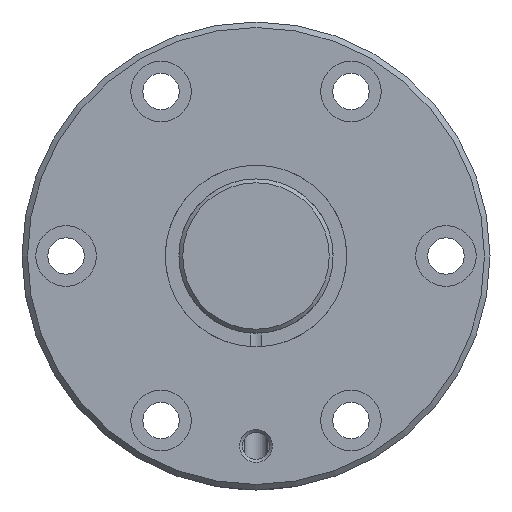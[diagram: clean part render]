
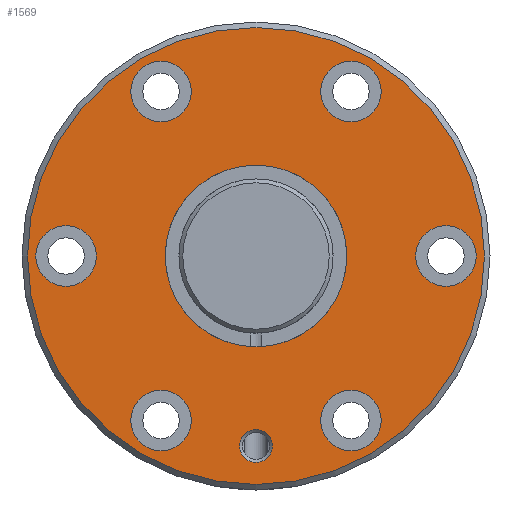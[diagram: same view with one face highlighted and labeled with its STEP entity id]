
A CAD part, left-side view. The second image highlights one B-rep face of the part: STEP entity #1569.
In plain terms, the highlighted planar face has unit normal (-1, 0, 0).
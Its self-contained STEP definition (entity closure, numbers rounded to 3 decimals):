
#267=ORIENTED_EDGE('',*,*,#629,.T.);
#268=ORIENTED_EDGE('',*,*,#661,.T.);
#269=ORIENTED_EDGE('',*,*,#662,.T.);
#270=ORIENTED_EDGE('',*,*,#663,.T.);
#271=ORIENTED_EDGE('',*,*,#664,.T.);
#272=ORIENTED_EDGE('',*,*,#665,.T.);
#273=ORIENTED_EDGE('',*,*,#666,.T.);
#274=ORIENTED_EDGE('',*,*,#667,.T.);
#275=ORIENTED_EDGE('',*,*,#660,.F.);
#629=EDGE_CURVE('',#830,#830,#974,.T.);
#660=EDGE_CURVE('',#861,#861,#977,.T.);
#661=EDGE_CURVE('',#862,#862,#978,.F.);
#662=EDGE_CURVE('',#863,#863,#979,.T.);
#663=EDGE_CURVE('',#864,#864,#980,.T.);
#664=EDGE_CURVE('',#865,#865,#981,.T.);
#665=EDGE_CURVE('',#866,#866,#982,.T.);
#666=EDGE_CURVE('',#867,#867,#983,.T.);
#667=EDGE_CURVE('',#868,#868,#984,.T.);
#830=VERTEX_POINT('',#2611);
#861=VERTEX_POINT('',#2757);
#862=VERTEX_POINT('',#2760);
#863=VERTEX_POINT('',#2762);
#864=VERTEX_POINT('',#2764);
#865=VERTEX_POINT('',#2766);
#866=VERTEX_POINT('',#2768);
#867=VERTEX_POINT('',#2770);
#868=VERTEX_POINT('',#2772);
#974=CIRCLE('',#1714,16.5);
#977=CIRCLE('',#1721,41.5);
#978=CIRCLE('',#1723,5.5);
#979=CIRCLE('',#1724,3.);
#980=CIRCLE('',#1725,5.5);
#981=CIRCLE('',#1726,5.5);
#982=CIRCLE('',#1727,5.5);
#983=CIRCLE('',#1728,5.5);
#984=CIRCLE('',#1729,5.5);
#1132=EDGE_LOOP('',(#267));
#1133=EDGE_LOOP('',(#268));
#1134=EDGE_LOOP('',(#269));
#1135=EDGE_LOOP('',(#270));
#1136=EDGE_LOOP('',(#271));
#1137=EDGE_LOOP('',(#272));
#1138=EDGE_LOOP('',(#273));
#1139=EDGE_LOOP('',(#274));
#1140=EDGE_LOOP('',(#275));
#1334=FACE_BOUND('',#1132,.T.);
#1335=FACE_BOUND('',#1133,.T.);
#1336=FACE_BOUND('',#1134,.T.);
#1337=FACE_BOUND('',#1135,.T.);
#1338=FACE_BOUND('',#1136,.T.);
#1339=FACE_BOUND('',#1137,.T.);
#1340=FACE_BOUND('',#1138,.T.);
#1341=FACE_BOUND('',#1139,.T.);
#1342=FACE_BOUND('',#1140,.T.);
#1507=PLANE('',#1722);
#1569=ADVANCED_FACE('',(#1334,#1335,#1336,#1337,#1338,#1339,#1340,#1341,
#1342),#1507,.T.);
#1714=AXIS2_PLACEMENT_3D('',#2610,#1994,#1995);
#1721=AXIS2_PLACEMENT_3D('',#2756,#2028,#2029);
#1722=AXIS2_PLACEMENT_3D('',#2758,#2030,#2031);
#1723=AXIS2_PLACEMENT_3D('',#2759,#2032,#2033);
#1724=AXIS2_PLACEMENT_3D('',#2761,#2034,#2035);
#1725=AXIS2_PLACEMENT_3D('',#2763,#2036,#2037);
#1726=AXIS2_PLACEMENT_3D('',#2765,#2038,#2039);
#1727=AXIS2_PLACEMENT_3D('',#2767,#2040,#2041);
#1728=AXIS2_PLACEMENT_3D('',#2769,#2042,#2043);
#1729=AXIS2_PLACEMENT_3D('',#2771,#2044,#2045);
#1994=DIRECTION('',(1.,0.,0.));
#1995=DIRECTION('',(0.,0.,-1.));
#2028=DIRECTION('',(1.,0.,0.));
#2029=DIRECTION('',(0.,0.,-1.));
#2030=DIRECTION('',(-1.,0.,0.));
#2031=DIRECTION('',(0.,0.,1.));
#2032=DIRECTION('',(-1.,0.,0.));
#2033=DIRECTION('',(0.,0.,1.));
#2034=DIRECTION('',(1.,0.,0.));
#2035=DIRECTION('',(0.,0.,-1.));
#2036=DIRECTION('',(1.,0.,0.));
#2037=DIRECTION('',(0.,0.,-1.));
#2038=DIRECTION('',(1.,0.,0.));
#2039=DIRECTION('',(0.,0.,-1.));
#2040=DIRECTION('',(1.,0.,0.));
#2041=DIRECTION('',(0.,0.,-1.));
#2042=DIRECTION('',(1.,0.,0.));
#2043=DIRECTION('',(0.,0.,-1.));
#2044=DIRECTION('',(1.,0.,0.));
#2045=DIRECTION('',(0.,0.,-1.));
#2610=CARTESIAN_POINT('',(0.,0.,0.));
#2611=CARTESIAN_POINT('',(0.,0.,-16.5));
#2756=CARTESIAN_POINT('',(0.,0.,0.));
#2757=CARTESIAN_POINT('',(0.,0.,-41.5));
#2758=CARTESIAN_POINT('',(0.,41.5,0.));
#2759=CARTESIAN_POINT('',(0.,34.5,0.));
#2760=CARTESIAN_POINT('',(0.,34.5,5.5));
#2761=CARTESIAN_POINT('',(0.,0.,-34.5));
#2762=CARTESIAN_POINT('',(0.,0.,-37.5));
#2763=CARTESIAN_POINT('',(0.,17.25,29.878));
#2764=CARTESIAN_POINT('',(0.,17.25,24.378));
#2765=CARTESIAN_POINT('',(0.,-17.25,-29.878));
#2766=CARTESIAN_POINT('',(0.,-17.25,-35.378));
#2767=CARTESIAN_POINT('',(0.,-17.25,29.878));
#2768=CARTESIAN_POINT('',(0.,-17.25,24.378));
#2769=CARTESIAN_POINT('',(0.,17.25,-29.878));
#2770=CARTESIAN_POINT('',(0.,17.25,-35.378));
#2771=CARTESIAN_POINT('',(0.,-34.5,0.));
#2772=CARTESIAN_POINT('',(0.,-34.5,-5.5));
